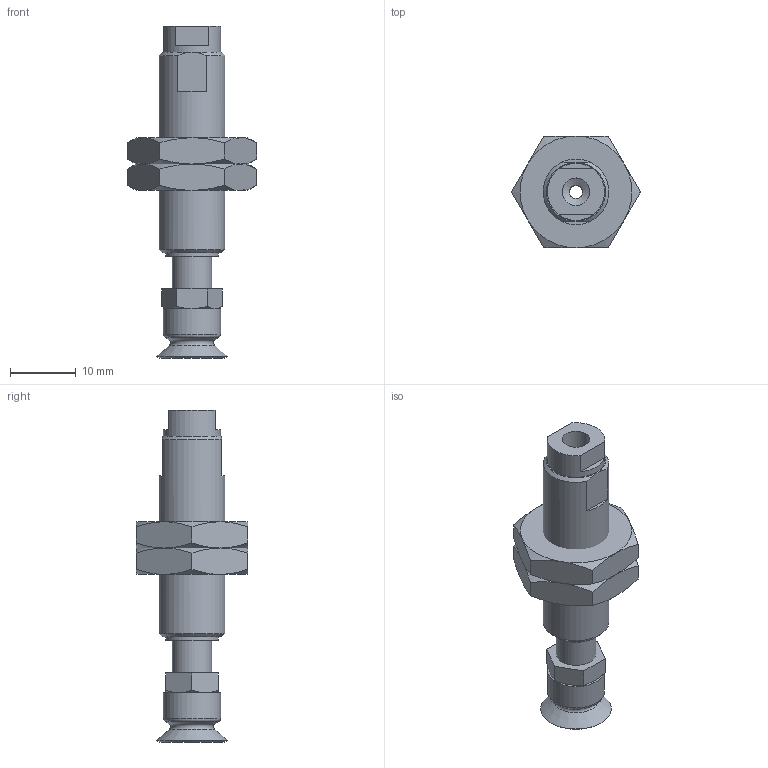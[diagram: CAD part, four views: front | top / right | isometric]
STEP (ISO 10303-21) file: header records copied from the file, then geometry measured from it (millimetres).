
FILE_DESCRIPTION(('STEP AP203'),'1');
FILE_NAME('-LB.stp','2025-04-10T08:08:55',(' '),(' '),'Spatial InterOp 3D',' ',' ');
FILE_SCHEMA(('CONFIG_CONTROL_DESIGN'));
Length unit declared in the file: millimetre
Products named in the file (8): BNABPFTH-10A-5-※-LB; __; BODY; NUT; TN-PS-10-M5; Setting screws-TN-PS-10-M5; BPFG-10A-※
Assembly tree (7 placements, depth 3):
  BNABPFTH-10A-5-※-LB
    __
    BODY
    NUT
    NUT
    TN-PS-10-M5
      Setting screws-TN-PS-10-M5
    BPFG-10A-※
Bounding box: 19.63 x 17 x 50.5 mm (x, y, z)
Volume: 4535 mm3; surface area: 4001.3 mm2
Topology: 6 solids, 6 shells, 126 faces, 265 edges, 160 vertices
Faces by surface type: plane 59, cone 41, cylinder 18, torus 7, bspline 1
Full cylindrical faces by diameter (mm): 2 x3, 3.9 x1, 4 x2, 4.2 x2, 5 x1, 6 x3, 8 x1, 8.7 x2, 9 x2, 10 x1
Entity records: 3637 total; most frequent: CARTESIAN_POINT 768, DIRECTION 522, ORIENTED_EDGE 444, AXIS2_PLACEMENT_3D 230, EDGE_CURVE 222, EDGE_LOOP 182, FACE_OUTER_BOUND 152, VERTEX_POINT 152
